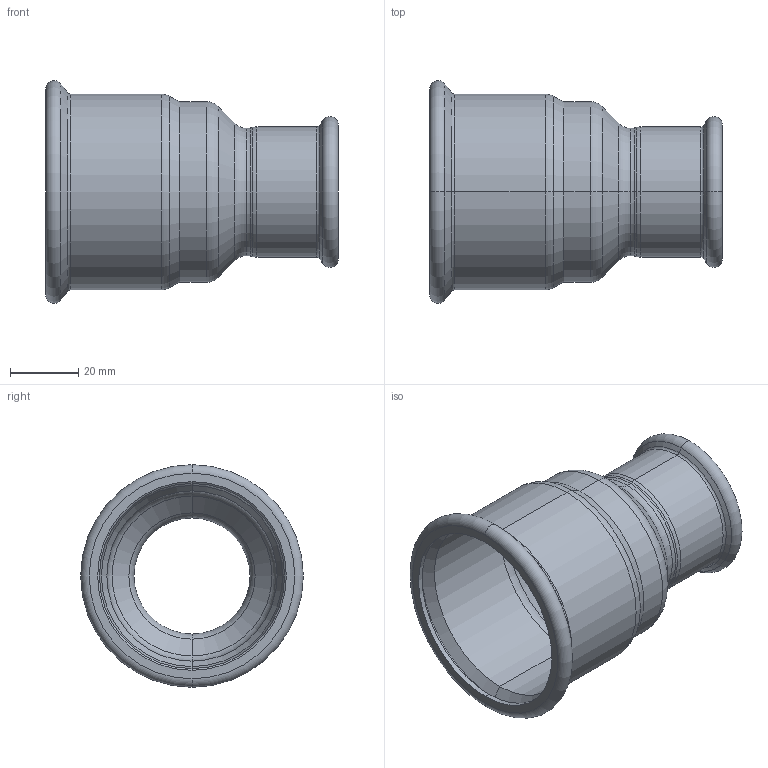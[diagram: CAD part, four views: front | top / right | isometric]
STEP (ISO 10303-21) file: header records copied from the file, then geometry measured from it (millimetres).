
FILE_DESCRIPTION (( 'STEP AP214' ), '1' );
FILE_NAME ('R543500.STEP', '2025-08-17T15:04:39', ( '' ), ( '' ), 'SwSTEP 2.0', 'SolidWorks 2020', '' );
FILE_SCHEMA (( 'AUTOMOTIVE_DESIGN' ));
Length unit declared in the file: millimetre
Products named in the file (1): R543500
Bounding box: 86 x 65.38 x 65.38 mm (x, y, z)
Volume: 23337.1 mm3; surface area: 30333.5 mm2
Topology: 1 solids, 1 shells, 76 faces, 152 edges, 80 vertices
Faces by surface type: torus 36, cone 20, cylinder 16, plane 4
Entity records: 2746 total; most frequent: DIRECTION 422, CARTESIAN_POINT 309, ORIENTED_EDGE 304, AXIS2_PLACEMENT_3D 193, EDGE_CURVE 152, CIRCLE 116, VERTEX_POINT 80, EDGE_LOOP 80
